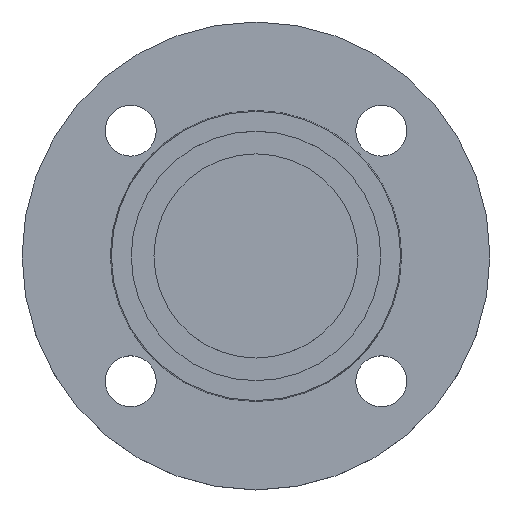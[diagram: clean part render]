
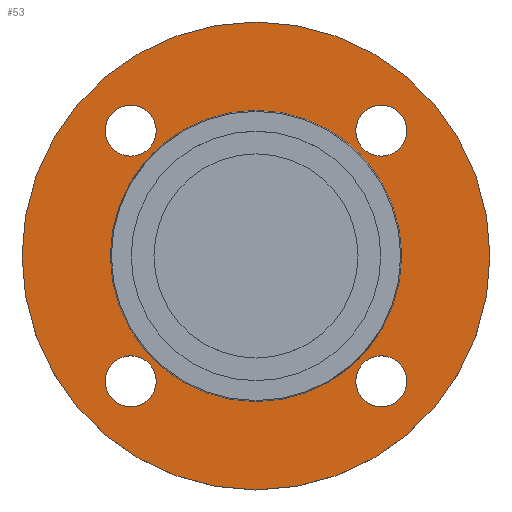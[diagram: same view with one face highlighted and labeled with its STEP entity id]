
A CAD part, top view. The second image highlights one B-rep face of the part: STEP entity #53.
In plain terms, the highlighted planar face has unit normal (0, 0, 1).
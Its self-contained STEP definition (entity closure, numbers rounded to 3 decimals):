
#2 = DIRECTION ( 'NONE',  ( 1., 0., 0. ) ) ;
#3 = DIRECTION ( 'NONE',  ( 0., 0., -1. ) ) ;
#4 = CARTESIAN_POINT ( 'NONE',  ( 44.194, 44.194, -2. ) ) ;
#5 = DIRECTION ( 'NONE',  ( -1., 0., 0. ) ) ;
#6 = DIRECTION ( 'NONE',  ( 0., 0., -1. ) ) ;
#7 = CARTESIAN_POINT ( 'NONE',  ( 0., 0., -2. ) ) ;
#14 = AXIS2_PLACEMENT_3D ( 'NONE', #169, #170, #172 ) ;
#16 = CARTESIAN_POINT ( 'NONE',  ( 35.194, -44.194, -2. ) ) ;
#31 = CIRCLE ( 'NONE', #246, 82.5 ) ;
#44 = CIRCLE ( 'NONE', #55, 9. ) ;
#52 = VERTEX_POINT ( 'NONE', #634 ) ;
#53 = ADVANCED_FACE ( 'NONE', ( #635, #637, #638, #639, #640, #642 ), #646, .T. ) ;
#54 = EDGE_LOOP ( 'NONE', ( #445, #446 ) ) ;
#55 = AXIS2_PLACEMENT_3D ( 'NONE', #486, #256, #191 ) ;
#58 = VERTEX_POINT ( 'NONE', #652 ) ;
#59 = CARTESIAN_POINT ( 'NONE',  ( -35.194, 44.194, -2. ) ) ;
#60 = DIRECTION ( 'NONE',  ( 1., 0., 0. ) ) ;
#64 = EDGE_CURVE ( 'NONE', #539, #58, #284, .T. ) ;
#68 = CARTESIAN_POINT ( 'NONE',  ( -35.194, -44.194, -2. ) ) ;
#72 = CARTESIAN_POINT ( 'NONE',  ( 82.5, 0., -2. ) ) ;
#85 = DIRECTION ( 'NONE',  ( 0., 0., -1. ) ) ;
#86 = DIRECTION ( 'NONE',  ( 1., 0., 0. ) ) ;
#104 = CARTESIAN_POINT ( 'NONE',  ( -44.194, 44.194, -2. ) ) ;
#133 = CIRCLE ( 'NONE', #742, 82.5 ) ;
#139 = AXIS2_PLACEMENT_3D ( 'NONE', #312, #85, #86 ) ;
#162 = CIRCLE ( 'NONE', #434, 9. ) ;
#169 = CARTESIAN_POINT ( 'NONE',  ( -44.194, 44.194, -2. ) ) ;
#170 = DIRECTION ( 'NONE',  ( 0., 0., -1. ) ) ;
#172 = DIRECTION ( 'NONE',  ( 1., 0., 0. ) ) ;
#173 = EDGE_CURVE ( 'NONE', #353, #604, #307, .T. ) ;
#179 = CARTESIAN_POINT ( 'NONE',  ( 44.194, -44.194, -2. ) ) ;
#181 = DIRECTION ( 'NONE',  ( 0., 0., -1. ) ) ;
#182 = DIRECTION ( 'NONE',  ( 1., 0., 0. ) ) ;
#188 = CARTESIAN_POINT ( 'NONE',  ( 0., 0., -2. ) ) ;
#189 = DIRECTION ( 'NONE',  ( 0., 0., -1. ) ) ;
#190 = DIRECTION ( 'NONE',  ( -1., 0., 0. ) ) ;
#191 = DIRECTION ( 'NONE',  ( 1., 0., 0. ) ) ;
#219 = CARTESIAN_POINT ( 'NONE',  ( 0., 0., -2. ) ) ;
#222 = AXIS2_PLACEMENT_3D ( 'NONE', #4, #3, #2 ) ;
#228 = DIRECTION ( 'NONE',  ( 0., 0., -1. ) ) ;
#230 = DIRECTION ( 'NONE',  ( -1., 0., 0. ) ) ;
#244 = CARTESIAN_POINT ( 'NONE',  ( -51.353, 0., -2. ) ) ;
#246 = AXIS2_PLACEMENT_3D ( 'NONE', #7, #6, #5 ) ;
#256 = DIRECTION ( 'NONE',  ( 0., 0., -1. ) ) ;
#263 = CIRCLE ( 'NONE', #139, 9. ) ;
#281 = EDGE_CURVE ( 'NONE', #356, #558, #423, .T. ) ;
#283 = CIRCLE ( 'NONE', #330, 51.353 ) ;
#284 = CIRCLE ( 'NONE', #625, 9. ) ;
#295 = EDGE_CURVE ( 'NONE', #541, #336, #300, .T. ) ;
#298 = EDGE_CURVE ( 'NONE', #542, #52, #283, .T. ) ;
#299 = DIRECTION ( 'NONE',  ( 0., 0., -1. ) ) ;
#300 = CIRCLE ( 'NONE', #301, 9. ) ;
#301 = AXIS2_PLACEMENT_3D ( 'NONE', #179, #181, #182 ) ;
#307 = CIRCLE ( 'NONE', #314, 9. ) ;
#312 = CARTESIAN_POINT ( 'NONE',  ( -44.194, -44.194, -2. ) ) ;
#314 = AXIS2_PLACEMENT_3D ( 'NONE', #760, #761, #762 ) ;
#320 = DIRECTION ( 'NONE',  ( -1., 0., 0. ) ) ;
#326 = EDGE_CURVE ( 'NONE', #52, #542, #695, .T. ) ;
#330 = AXIS2_PLACEMENT_3D ( 'NONE', #188, #189, #190 ) ;
#336 = VERTEX_POINT ( 'NONE', #16 ) ;
#338 = VERTEX_POINT ( 'NONE', #72 ) ;
#353 = VERTEX_POINT ( 'NONE', #68 ) ;
#356 = VERTEX_POINT ( 'NONE', #59 ) ;
#385 = CARTESIAN_POINT ( 'NONE',  ( -53.194, 44.194, -2. ) ) ;
#390 = CARTESIAN_POINT ( 'NONE',  ( -82.5, 0., -2. ) ) ;
#423 = CIRCLE ( 'NONE', #14, 9. ) ;
#424 = CIRCLE ( 'NONE', #222, 9. ) ;
#425 = EDGE_CURVE ( 'NONE', #604, #353, #263, .T. ) ;
#433 = ORIENTED_EDGE ( 'NONE', *, *, #295, .T. ) ;
#434 = AXIS2_PLACEMENT_3D ( 'NONE', #104, #299, #60 ) ;
#435 = ORIENTED_EDGE ( 'NONE', *, *, #607, .T. ) ;
#437 = ORIENTED_EDGE ( 'NONE', *, *, #173, .T. ) ;
#439 = ORIENTED_EDGE ( 'NONE', *, *, #425, .T. ) ;
#440 = ORIENTED_EDGE ( 'NONE', *, *, #281, .T. ) ;
#442 = ORIENTED_EDGE ( 'NONE', *, *, #743, .T. ) ;
#443 = ORIENTED_EDGE ( 'NONE', *, *, #489, .T. ) ;
#444 = ORIENTED_EDGE ( 'NONE', *, *, #64, .T. ) ;
#445 = ORIENTED_EDGE ( 'NONE', *, *, #298, .T. ) ;
#446 = ORIENTED_EDGE ( 'NONE', *, *, #326, .T. ) ;
#447 = ORIENTED_EDGE ( 'NONE', *, *, #557, .F. ) ;
#448 = ORIENTED_EDGE ( 'NONE', *, *, #477, .F. ) ;
#475 = AXIS2_PLACEMENT_3D ( 'NONE', #219, #228, #230 ) ;
#477 = EDGE_CURVE ( 'NONE', #528, #338, #31, .T. ) ;
#479 = CARTESIAN_POINT ( 'NONE',  ( 53.194, -44.194, -2. ) ) ;
#486 = CARTESIAN_POINT ( 'NONE',  ( 44.194, -44.194, -2. ) ) ;
#489 = EDGE_CURVE ( 'NONE', #58, #539, #424, .T. ) ;
#528 = VERTEX_POINT ( 'NONE', #390 ) ;
#539 = VERTEX_POINT ( 'NONE', #780 ) ;
#541 = VERTEX_POINT ( 'NONE', #479 ) ;
#542 = VERTEX_POINT ( 'NONE', #244 ) ;
#556 = EDGE_LOOP ( 'NONE', ( #447, #448 ) ) ;
#557 = EDGE_CURVE ( 'NONE', #338, #528, #133, .T. ) ;
#558 = VERTEX_POINT ( 'NONE', #385 ) ;
#564 = CARTESIAN_POINT ( 'NONE',  ( -53.194, -44.194, -2. ) ) ;
#569 = EDGE_LOOP ( 'NONE', ( #443, #444 ) ) ;
#570 = EDGE_LOOP ( 'NONE', ( #437, #439 ) ) ;
#575 = EDGE_LOOP ( 'NONE', ( #440, #442 ) ) ;
#604 = VERTEX_POINT ( 'NONE', #564 ) ;
#606 = EDGE_LOOP ( 'NONE', ( #433, #435 ) ) ;
#607 = EDGE_CURVE ( 'NONE', #336, #541, #44, .T. ) ;
#625 = AXIS2_PLACEMENT_3D ( 'NONE', #654, #656, #657 ) ;
#634 = CARTESIAN_POINT ( 'NONE',  ( 51.353, 0., -2. ) ) ;
#635 = FACE_BOUND ( 'NONE', #606, .T. ) ;
#636 = CARTESIAN_POINT ( 'NONE',  ( 0., 0., -2. ) ) ;
#637 = FACE_BOUND ( 'NONE', #570, .T. ) ;
#638 = FACE_BOUND ( 'NONE', #575, .T. ) ;
#639 = FACE_BOUND ( 'NONE', #569, .T. ) ;
#640 = FACE_BOUND ( 'NONE', #54, .T. ) ;
#642 = FACE_OUTER_BOUND ( 'NONE', #556, .T. ) ;
#646 = PLANE ( 'NONE',  #781 ) ;
#647 = CARTESIAN_POINT ( 'NONE',  ( 51.353, 0., -2. ) ) ;
#649 = DIRECTION ( 'NONE',  ( 0., 0., 1. ) ) ;
#650 = DIRECTION ( 'NONE',  ( 1., 0., 0. ) ) ;
#652 = CARTESIAN_POINT ( 'NONE',  ( 53.194, 44.194, -2. ) ) ;
#654 = CARTESIAN_POINT ( 'NONE',  ( 44.194, 44.194, -2. ) ) ;
#656 = DIRECTION ( 'NONE',  ( 0., 0., -1. ) ) ;
#657 = DIRECTION ( 'NONE',  ( 1., 0., 0. ) ) ;
#695 = CIRCLE ( 'NONE', #475, 51.353 ) ;
#711 = DIRECTION ( 'NONE',  ( 0., 0., -1. ) ) ;
#742 = AXIS2_PLACEMENT_3D ( 'NONE', #636, #711, #320 ) ;
#743 = EDGE_CURVE ( 'NONE', #558, #356, #162, .T. ) ;
#760 = CARTESIAN_POINT ( 'NONE',  ( -44.194, -44.194, -2. ) ) ;
#761 = DIRECTION ( 'NONE',  ( 0., 0., -1. ) ) ;
#762 = DIRECTION ( 'NONE',  ( 1., 0., 0. ) ) ;
#780 = CARTESIAN_POINT ( 'NONE',  ( 35.194, 44.194, -2. ) ) ;
#781 = AXIS2_PLACEMENT_3D ( 'NONE', #647, #649, #650 ) ;
